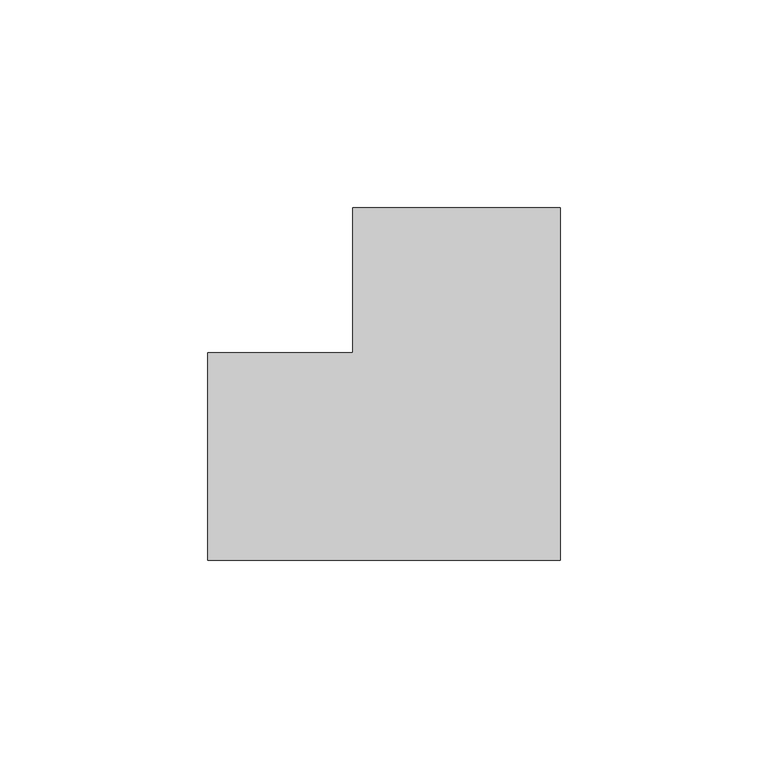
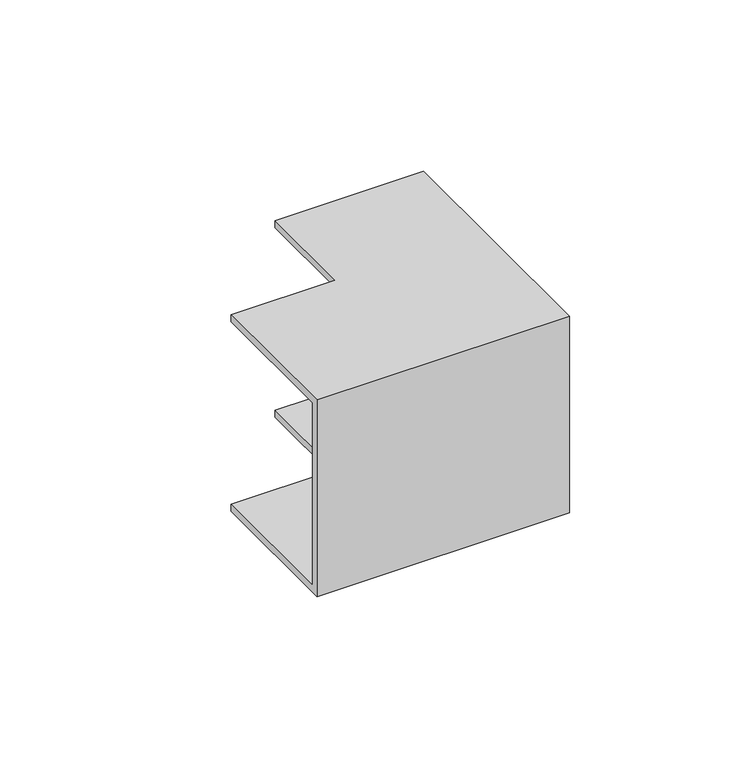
"""IFC4 building model written with IfcOpenShell, lengths in millimetres: cable carrier fitting geometry, КНС_УголВнутренний_ILF_DKC : Белый."""

from ifc_helpers import new_model, si_unit, origin, place, context, project, spatial, faceted_brep, source, transform, mapped, element, save


def cable_carrier_fitting_6e8eea5a(model_context):
    return source(origin(), model_context, "Body", "Brep", [
        faceted_brep([(-60.0, -25.0, 35.0), (-60.0, 25.0, 35.0), (-60.0, 25.0, 32.5), (-60.0, -22.5, 32.5), (-60.0, -22.5, -32.5), (-60.0, 25.0, -32.5), (-60.0, 25.0, -35.0), (-60.0, -25.0, -35.0), (25.0, 60.0, 35.0), (25.0, 60.0, -35.0), (-25.0, 60.0, -35.0), (-25.0, 60.0, -32.5), (22.5, 60.0, -32.5), (22.5, 60.0, 32.5), (-25.0, 60.0, 32.5), (-25.0, 60.0, 35.0), (25.0, -25.0, 35.0), (-25.0, 25.0, 35.0), (-25.0, 25.0, 32.5), (22.5, -22.5, 32.5), (22.5, -22.5, -32.5), (-25.0, 25.0, -32.5), (-25.0, 25.0, -35.0), (25.0, -25.0, -35.0)], [[[0, 1, 2, 3, 4, 5, 6, 7]], [[8, 9, 10, 11, 12, 13, 14, 15]], [[1, 0, 16, 8, 15, 17]], [[2, 1, 17, 18]], [[3, 2, 18, 14, 13, 19]], [[4, 3, 19, 20]], [[5, 4, 20, 12, 11, 21]], [[6, 5, 21, 22]], [[7, 6, 22, 10, 9, 23]], [[0, 7, 23, 16]], [[18, 17, 15, 14]], [[20, 19, 13, 12]], [[22, 21, 11, 10]], [[16, 23, 9, 8]]]),
    ])


if __name__ == "__main__":
    model = new_model("IFC4")
    model_context = context("Model", 3, world=origin())
    ifc_project = project(units=[si_unit("LENGTHUNIT", "METRE", prefix="MILLI")], contexts=[model_context])
    site = spatial("IfcSite", under=ifc_project)
    building = spatial("IfcBuilding", under=site)
    placement = place(None, origin())
    cable_carrier_fitting_shape = cable_carrier_fitting_6e8eea5a(model_context)
    element("IfcCableCarrierFitting", 1, ObjectType="КНС_УголВнутренний_ILF_DKC : Белый", at=placement, inside=building, context=model_context, shape_type="MappedRepresentation", body=[
        mapped(cable_carrier_fitting_shape, transform((0.0, 0.0, 0.0), x_axis=(1.0, 0.0, 0.0), y_axis=(0.0, 1.0, 0.0), z_axis=(0.0, 0.0, 1.0))),
    ])
    save(model, "model.ifc")
